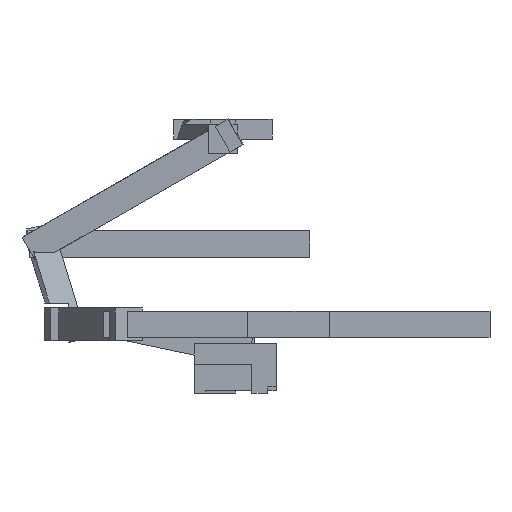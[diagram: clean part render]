
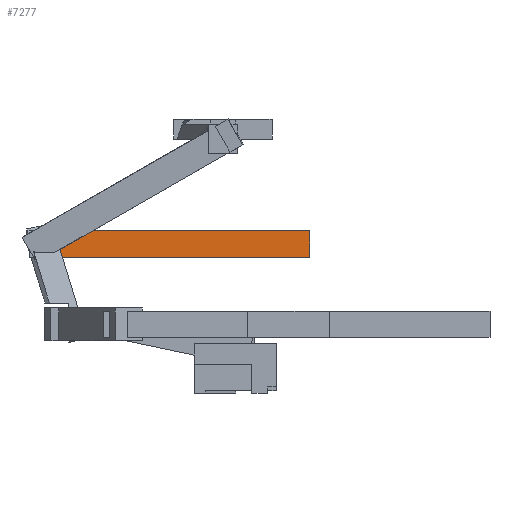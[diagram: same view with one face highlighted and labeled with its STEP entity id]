
A CAD part, left-side view. The second image highlights one B-rep face of the part: STEP entity #7277.
In plain terms, the highlighted planar face has unit normal (-1, 0, 0).
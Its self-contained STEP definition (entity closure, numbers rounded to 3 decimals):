
#831 = PLANE('',#832);
#832 = AXIS2_PLACEMENT_3D('',#833,#834,#835);
#833 = CARTESIAN_POINT('',(-9.985,70.026,
    12.055));
#834 = DIRECTION('',(-0.136,0.969,-0.208));
#835 = DIRECTION('',(0.53,0.248,0.811));
#3356 = PLANE('',#3357);
#3357 = AXIS2_PLACEMENT_3D('',#3358,#3359,#3360);
#3358 = CARTESIAN_POINT('',(-7.064,72.864,
    15.854));
#3359 = DIRECTION('',(0.,-0.497,-0.868));
#3360 = DIRECTION('',(-0.039,-0.867,0.497
    ));
#3397 = VERTEX_POINT('',#3398);
#3398 = CARTESIAN_POINT('',(-6.6,71.486,16.644));
#3417 = EDGE_CURVE('',#3397,#3418,#3420,.T.);
#3418 = VERTEX_POINT('',#3419);
#3419 = CARTESIAN_POINT('',(-6.6,71.39,16.2));
#3420 = SURFACE_CURVE('',#3421,(#3425,#3431),.PCURVE_S1.);
#3421 = LINE('',#3422,#3423);
#3422 = CARTESIAN_POINT('',(-6.6,70.601,12.521));
#3423 = VECTOR('',#3424,1.);
#3424 = DIRECTION('',(0.,-0.21,-0.978));
#3425 = PCURVE('',#831,#3426);
#3426 = DEFINITIONAL_REPRESENTATION('',(#3427),#3430);
#3427 = B_SPLINE_CURVE_WITH_KNOTS('',1,(#3428,#3429),.UNSPECIFIED.,.F.,
  .F.,(2,2),(-4.825,-3.763),.PIECEWISE_BEZIER_KNOTS.);
#3428 = CARTESIAN_POINT('',(6.391,0.));
#3429 = CARTESIAN_POINT('',(5.493,0.568));
#3430 = ( GEOMETRIC_REPRESENTATION_CONTEXT(2) 
PARAMETRIC_REPRESENTATION_CONTEXT() REPRESENTATION_CONTEXT('2D SPACE',''
  ) );
#3431 = PCURVE('',#3432,#3437);
#3432 = PLANE('',#3433);
#3433 = AXIS2_PLACEMENT_3D('',#3434,#3435,#3436);
#3434 = CARTESIAN_POINT('',(-6.6,56.2,16.2));
#3435 = DIRECTION('',(1.,0.,0.));
#3436 = DIRECTION('',(0.,1.,0.));
#3437 = DEFINITIONAL_REPRESENTATION('',(#3438),#3441);
#3438 = B_SPLINE_CURVE_WITH_KNOTS('',1,(#3439,#3440),.UNSPECIFIED.,.F.,
  .F.,(2,2),(-4.825,-3.763),.PIECEWISE_BEZIER_KNOTS.);
#3439 = CARTESIAN_POINT('',(15.413,1.038));
#3440 = CARTESIAN_POINT('',(15.19,0.));
#3441 = ( GEOMETRIC_REPRESENTATION_CONTEXT(2) 
PARAMETRIC_REPRESENTATION_CONTEXT() REPRESENTATION_CONTEXT('2D SPACE',''
  ) );
#3456 = PLANE('',#3457);
#3457 = AXIS2_PLACEMENT_3D('',#3458,#3459,#3460);
#3458 = CARTESIAN_POINT('',(-6.6,73.3,16.2));
#3459 = DIRECTION('',(0.,0.,1.));
#3460 = DIRECTION('',(1.,0.,0.));
#6661 = EDGE_CURVE('',#6662,#3397,#6664,.T.);
#6662 = VERTEX_POINT('',#6663);
#6663 = CARTESIAN_POINT('',(-6.6,69.467,17.8));
#6664 = SURFACE_CURVE('',#6665,(#6669,#6675),.PCURVE_S1.);
#6665 = LINE('',#6666,#6667);
#6666 = CARTESIAN_POINT('',(-6.6,66.515,19.49));
#6667 = VECTOR('',#6668,1.);
#6668 = DIRECTION('',(0.,0.868,-0.497));
#6669 = PCURVE('',#3356,#6670);
#6670 = DEFINITIONAL_REPRESENTATION('',(#6671),#6674);
#6671 = B_SPLINE_CURVE_WITH_KNOTS('',1,(#6672,#6673),.UNSPECIFIED.,.F.,
  .F.,(2,2),(3.401,5.975),.PIECEWISE_BEZIER_KNOTS.);
#6672 = CARTESIAN_POINT('',(3.893,-0.618));
#6673 = CARTESIAN_POINT('',(1.322,-0.516));
#6674 = ( GEOMETRIC_REPRESENTATION_CONTEXT(2) 
PARAMETRIC_REPRESENTATION_CONTEXT() REPRESENTATION_CONTEXT('2D SPACE',''
  ) );
#6675 = PCURVE('',#3432,#6676);
#6676 = DEFINITIONAL_REPRESENTATION('',(#6677),#6680);
#6677 = B_SPLINE_CURVE_WITH_KNOTS('',1,(#6678,#6679),.UNSPECIFIED.,.F.,
  .F.,(2,2),(3.401,5.975),.PIECEWISE_BEZIER_KNOTS.);
#6678 = CARTESIAN_POINT('',(13.267,1.6));
#6679 = CARTESIAN_POINT('',(15.5,0.321));
#6680 = ( GEOMETRIC_REPRESENTATION_CONTEXT(2) 
PARAMETRIC_REPRESENTATION_CONTEXT() REPRESENTATION_CONTEXT('2D SPACE',''
  ) );
#6697 = PLANE('',#6698);
#6698 = AXIS2_PLACEMENT_3D('',#6699,#6700,#6701);
#6699 = CARTESIAN_POINT('',(-6.6,56.2,17.8));
#6700 = DIRECTION('',(0.,0.,1.));
#6701 = DIRECTION('',(0.,1.,0.));
#6967 = EDGE_CURVE('',#6968,#3418,#6970,.T.);
#6968 = VERTEX_POINT('',#6969);
#6969 = CARTESIAN_POINT('',(-6.6,56.2,16.2));
#6970 = SURFACE_CURVE('',#6971,(#6975,#6982),.PCURVE_S1.);
#6971 = LINE('',#6972,#6973);
#6972 = CARTESIAN_POINT('',(-6.6,56.2,16.2));
#6973 = VECTOR('',#6974,1.);
#6974 = DIRECTION('',(0.,1.,0.));
#6975 = PCURVE('',#3456,#6976);
#6976 = DEFINITIONAL_REPRESENTATION('',(#6977),#6981);
#6977 = LINE('',#6978,#6979);
#6978 = CARTESIAN_POINT('',(0.,-17.1));
#6979 = VECTOR('',#6980,1.);
#6980 = DIRECTION('',(0.,1.));
#6981 = ( GEOMETRIC_REPRESENTATION_CONTEXT(2) 
PARAMETRIC_REPRESENTATION_CONTEXT() REPRESENTATION_CONTEXT('2D SPACE',''
  ) );
#6982 = PCURVE('',#3432,#6983);
#6983 = DEFINITIONAL_REPRESENTATION('',(#6984),#6988);
#6984 = LINE('',#6985,#6986);
#6985 = CARTESIAN_POINT('',(0.,0.));
#6986 = VECTOR('',#6987,1.);
#6987 = DIRECTION('',(1.,0.));
#6988 = ( GEOMETRIC_REPRESENTATION_CONTEXT(2) 
PARAMETRIC_REPRESENTATION_CONTEXT() REPRESENTATION_CONTEXT('2D SPACE',''
  ) );
#7006 = PLANE('',#7007);
#7007 = AXIS2_PLACEMENT_3D('',#7008,#7009,#7010);
#7008 = CARTESIAN_POINT('',(-6.6,56.2,16.2));
#7009 = DIRECTION('',(0.,1.,0.));
#7010 = DIRECTION('',(0.,0.,1.));
#7277 = ADVANCED_FACE('',(#7278),#3432,.F.);
#7278 = FACE_BOUND('',#7279,.F.);
#7279 = EDGE_LOOP('',(#7280,#7303,#7324,#7325,#7326));
#7280 = ORIENTED_EDGE('',*,*,#7281,.F.);
#7281 = EDGE_CURVE('',#7282,#6662,#7284,.T.);
#7282 = VERTEX_POINT('',#7283);
#7283 = CARTESIAN_POINT('',(-6.6,56.2,17.8));
#7284 = SURFACE_CURVE('',#7285,(#7289,#7296),.PCURVE_S1.);
#7285 = LINE('',#7286,#7287);
#7286 = CARTESIAN_POINT('',(-6.6,56.2,17.8));
#7287 = VECTOR('',#7288,1.);
#7288 = DIRECTION('',(0.,1.,0.));
#7289 = PCURVE('',#3432,#7290);
#7290 = DEFINITIONAL_REPRESENTATION('',(#7291),#7295);
#7291 = LINE('',#7292,#7293);
#7292 = CARTESIAN_POINT('',(0.,1.6));
#7293 = VECTOR('',#7294,1.);
#7294 = DIRECTION('',(1.,0.));
#7295 = ( GEOMETRIC_REPRESENTATION_CONTEXT(2) 
PARAMETRIC_REPRESENTATION_CONTEXT() REPRESENTATION_CONTEXT('2D SPACE',''
  ) );
#7296 = PCURVE('',#6697,#7297);
#7297 = DEFINITIONAL_REPRESENTATION('',(#7298),#7302);
#7298 = LINE('',#7299,#7300);
#7299 = CARTESIAN_POINT('',(0.,0.));
#7300 = VECTOR('',#7301,1.);
#7301 = DIRECTION('',(1.,0.));
#7302 = ( GEOMETRIC_REPRESENTATION_CONTEXT(2) 
PARAMETRIC_REPRESENTATION_CONTEXT() REPRESENTATION_CONTEXT('2D SPACE',''
  ) );
#7303 = ORIENTED_EDGE('',*,*,#7304,.F.);
#7304 = EDGE_CURVE('',#6968,#7282,#7305,.T.);
#7305 = SURFACE_CURVE('',#7306,(#7310,#7317),.PCURVE_S1.);
#7306 = LINE('',#7307,#7308);
#7307 = CARTESIAN_POINT('',(-6.6,56.2,16.2));
#7308 = VECTOR('',#7309,1.);
#7309 = DIRECTION('',(0.,0.,1.));
#7310 = PCURVE('',#3432,#7311);
#7311 = DEFINITIONAL_REPRESENTATION('',(#7312),#7316);
#7312 = LINE('',#7313,#7314);
#7313 = CARTESIAN_POINT('',(0.,0.));
#7314 = VECTOR('',#7315,1.);
#7315 = DIRECTION('',(0.,1.));
#7316 = ( GEOMETRIC_REPRESENTATION_CONTEXT(2) 
PARAMETRIC_REPRESENTATION_CONTEXT() REPRESENTATION_CONTEXT('2D SPACE',''
  ) );
#7317 = PCURVE('',#7006,#7318);
#7318 = DEFINITIONAL_REPRESENTATION('',(#7319),#7323);
#7319 = LINE('',#7320,#7321);
#7320 = CARTESIAN_POINT('',(0.,0.));
#7321 = VECTOR('',#7322,1.);
#7322 = DIRECTION('',(1.,0.));
#7323 = ( GEOMETRIC_REPRESENTATION_CONTEXT(2) 
PARAMETRIC_REPRESENTATION_CONTEXT() REPRESENTATION_CONTEXT('2D SPACE',''
  ) );
#7324 = ORIENTED_EDGE('',*,*,#6967,.T.);
#7325 = ORIENTED_EDGE('',*,*,#3417,.F.);
#7326 = ORIENTED_EDGE('',*,*,#6661,.F.);
